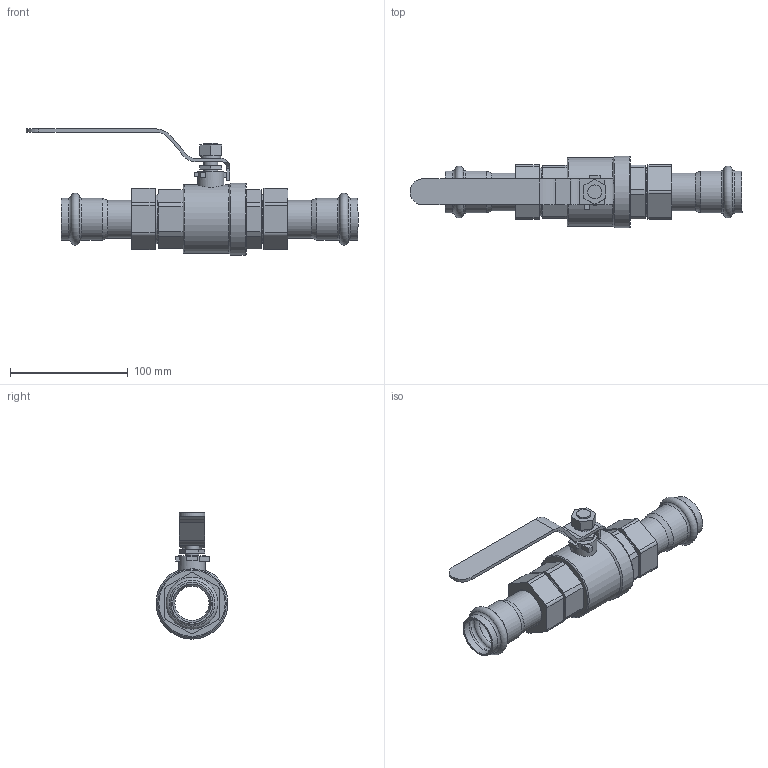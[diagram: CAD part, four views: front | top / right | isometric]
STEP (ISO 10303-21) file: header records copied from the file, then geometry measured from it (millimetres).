
FILE_DESCRIPTION(/* description */ (''),/* implementation_level */ '2;1');
FILE_NAME(/* name */ '51352030001.stp',/* time_stamp */ '2022-06-28T15:36:31+08:00',/* author */ (''),/* organization */ (''),/* preprocessor_version */ 'ST-DEVELOPER v11',/* originating_system */ 'SIEMENS PLM Software NX 7.5',/* authorisation */ '');
FILE_SCHEMA (('CONFIG_CONTROL_DESIGN'));
Length unit declared in the file: millimetre
Products named in the file (1): AdmiB4625zr1
Bounding box: 281.8 x 61 x 107.2 mm (x, y, z)
Volume: 221506.2 mm3; surface area: 94135.4 mm2
Topology: 5 solids, 5 shells, 202 faces, 472 edges, 302 vertices
Faces by surface type: plane 112, cylinder 53, torus 28, cone 9
Full cylindrical faces by diameter (mm): 11.8 x3, 16.8 x1, 22.4 x1, 29 x2, 31.5 x1, 32 x2, 32.4 x1, 32.6 x6, 33.19 x2, 34.39 x2, 35.6 x4, 38.7 x2, 40.75 x2, 41.4 x1, 58.2 x1, 61 x1
Entity records: 5395 total; most frequent: DIRECTION 935, CARTESIAN_POINT 921, ORIENTED_EDGE 776, EDGE_CURVE 388, AXIS2_PLACEMENT_3D 349, EDGE_LOOP 305, VERTEX_POINT 289, LINE 237
